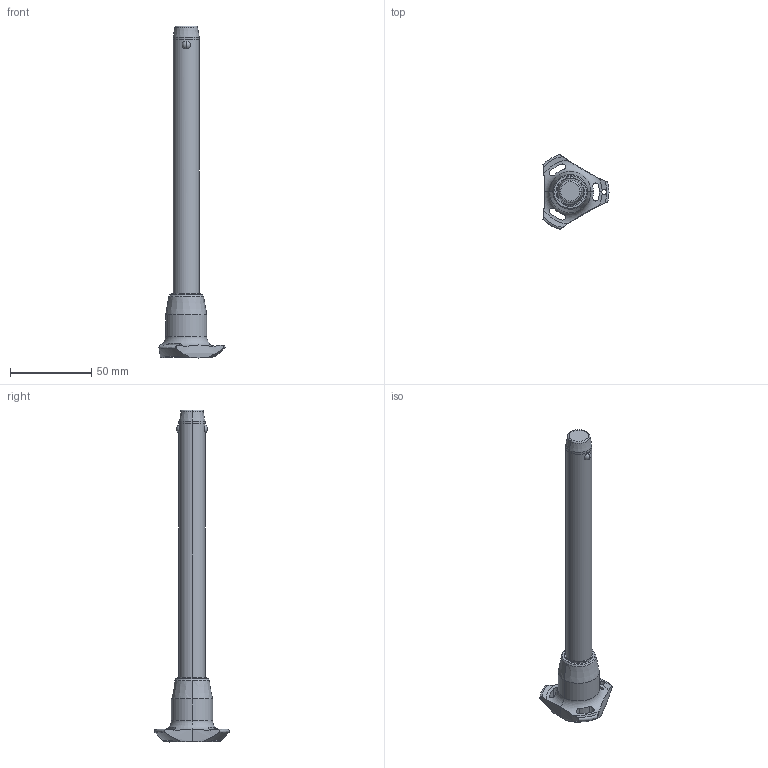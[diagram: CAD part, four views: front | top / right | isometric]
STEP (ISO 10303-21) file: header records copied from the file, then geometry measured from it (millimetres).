
FILE_DESCRIPTION (( 'STEP AP203' ), '1' );
FILE_NAME ('QR1716.M16-150-T.step', '2025-11-13T10:42:09', ( '' ), ( '' ), 'SwSTEP 2.0', 'SolidWorks 2019', '' );
FILE_SCHEMA (( 'CONFIG_CONTROL_DESIGN' ));
Length unit declared in the file: millimetre
Products named in the file (1): QR1716.M16-150-T
Bounding box: 40.5 x 45.88 x 203.7 mm (x, y, z)
Volume: 53888.9 mm3; surface area: 14132.8 mm2
Topology: 1 solids, 1 shells, 68 faces, 183 edges, 116 vertices
Faces by surface type: cylinder 32, cone 14, torus 11, sphere 6, plane 5
Entity records: 2923 total; most frequent: CARTESIAN_POINT 1170, ORIENTED_EDGE 366, DIRECTION 346, EDGE_CURVE 183, AXIS2_PLACEMENT_3D 154, VERTEX_POINT 116, CIRCLE 85, EDGE_LOOP 75
